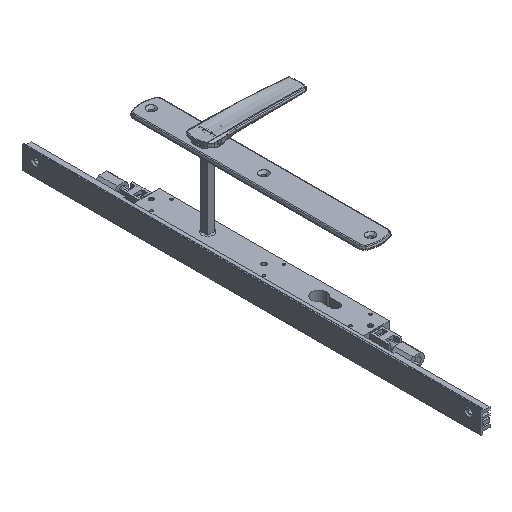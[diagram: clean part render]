
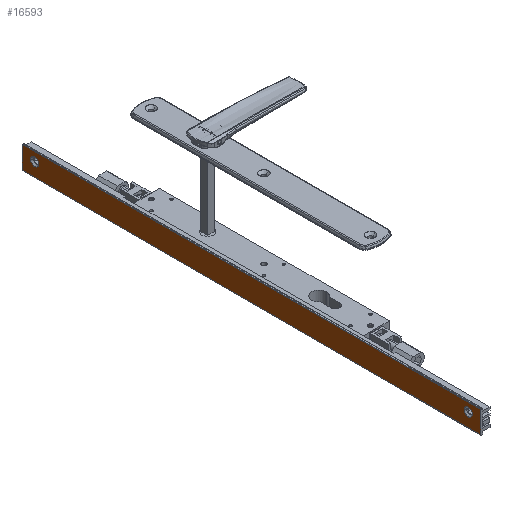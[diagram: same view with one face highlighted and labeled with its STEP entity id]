
A CAD part, isometric view. The second image highlights one B-rep face of the part: STEP entity #16593.
In plain terms, the highlighted planar face has unit normal (-1, 0, 0) as drawn and (0, 1, 0) by its records, which use the part's own axes.
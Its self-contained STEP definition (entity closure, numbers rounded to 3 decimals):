
#795 = EDGE_CURVE ( 'NONE', #2793, #11997, #7169, .T. ) ;
#2270 = DIRECTION ( 'NONE',  ( -1., 0., 0. ) ) ;
#2543 = CIRCLE ( 'NONE', #30531, 4.889 ) ;
#2561 = ORIENTED_EDGE ( 'NONE', *, *, #31897, .F. ) ;
#2793 = VERTEX_POINT ( 'NONE', #22550 ) ;
#3156 = VERTEX_POINT ( 'NONE', #8175 ) ;
#4117 = DIRECTION ( 'NONE',  ( 1., 0., 0. ) ) ;
#4167 = EDGE_CURVE ( 'NONE', #6639, #11997, #12774, .T. ) ;
#4194 = EDGE_CURVE ( 'NONE', #31401, #3156, #13647, .T. ) ;
#4330 = CARTESIAN_POINT ( 'NONE',  ( 11.8, 12.4, 15. ) ) ;
#4407 = VERTEX_POINT ( 'NONE', #9003 ) ;
#4635 = CARTESIAN_POINT ( 'NONE',  ( 20.8, 12.4, 0. ) ) ;
#4699 = EDGE_CURVE ( 'NONE', #30803, #2793, #15313, .T. ) ;
#5029 = DIRECTION ( 'NONE',  ( 0., -1., 0. ) ) ;
#5160 = VERTEX_POINT ( 'NONE', #21757 ) ;
#5890 = EDGE_LOOP ( 'NONE', ( #10649, #2561 ) ) ;
#6390 = FACE_BOUND ( 'NONE', #5890, .T. ) ;
#6639 = VERTEX_POINT ( 'NONE', #20525 ) ;
#6834 = DIRECTION ( 'NONE',  ( 0., 1., 0. ) ) ;
#7169 = LINE ( 'NONE', #17407, #8049 ) ;
#7295 = CARTESIAN_POINT ( 'NONE',  ( 22., 12.4, 0. ) ) ;
#7312 = PLANE ( 'NONE',  #14983 ) ;
#7470 = FACE_BOUND ( 'NONE', #21862, .T. ) ;
#7557 = DIRECTION ( 'NONE',  ( -1., 0., 0. ) ) ;
#7660 = ORIENTED_EDGE ( 'NONE', *, *, #18984, .T. ) ;
#7727 = CARTESIAN_POINT ( 'NONE',  ( 11.8, 12.4, 15. ) ) ;
#8049 = VECTOR ( 'NONE', #2270, 1000. ) ;
#8175 = CARTESIAN_POINT ( 'NONE',  ( 11.8, 12.4, 19.89 ) ) ;
#9003 = CARTESIAN_POINT ( 'NONE',  ( 11.8, 12.4, 524.111 ) ) ;
#9525 = DIRECTION ( 'NONE',  ( 0., 0., 1. ) ) ;
#9964 = EDGE_LOOP ( 'NONE', ( #7660, #27714, #26417, #19012 ) ) ;
#10649 = ORIENTED_EDGE ( 'NONE', *, *, #23510, .F. ) ;
#11997 = VERTEX_POINT ( 'NONE', #31278 ) ;
#12103 = AXIS2_PLACEMENT_3D ( 'NONE', #7727, #27259, #19917 ) ;
#12203 = CARTESIAN_POINT ( 'NONE',  ( 20.8, 12.4, 544. ) ) ;
#12774 = LINE ( 'NONE', #22232, #16749 ) ;
#13206 = AXIS2_PLACEMENT_3D ( 'NONE', #22465, #20011, #20828 ) ;
#13647 = CIRCLE ( 'NONE', #12103, 4.89 ) ;
#14131 = AXIS2_PLACEMENT_3D ( 'NONE', #4330, #26957, #14253 ) ;
#14253 = DIRECTION ( 'NONE',  ( 0., 0., 1. ) ) ;
#14983 = AXIS2_PLACEMENT_3D ( 'NONE', #12203, #5029, #4117 ) ;
#15313 = LINE ( 'NONE', #30774, #15725 ) ;
#15725 = VECTOR ( 'NONE', #30624, 1000. ) ;
#16593 = ADVANCED_FACE ( 'NONE', ( #7470, #6390, #17397 ), #7312, .F. ) ;
#16749 = VECTOR ( 'NONE', #9525, 1000. ) ;
#17318 = LINE ( 'NONE', #4635, #25778 ) ;
#17397 = FACE_OUTER_BOUND ( 'NONE', #9964, .T. ) ;
#17407 = CARTESIAN_POINT ( 'NONE',  ( 20.8, 12.4, 544. ) ) ;
#18281 = CIRCLE ( 'NONE', #14131, 4.89 ) ;
#18984 = EDGE_CURVE ( 'NONE', #30803, #6639, #17318, .T. ) ;
#19012 = ORIENTED_EDGE ( 'NONE', *, *, #4699, .F. ) ;
#19917 = DIRECTION ( 'NONE',  ( 0., 0., 1. ) ) ;
#20011 = DIRECTION ( 'NONE',  ( 0., 1., 0. ) ) ;
#20525 = CARTESIAN_POINT ( 'NONE',  ( -4.4, 12.4, 0. ) ) ;
#20828 = DIRECTION ( 'NONE',  ( 0., 0., 1. ) ) ;
#21660 = CARTESIAN_POINT ( 'NONE',  ( 11.8, 12.4, 529. ) ) ;
#21757 = CARTESIAN_POINT ( 'NONE',  ( 11.8, 12.4, 533.889 ) ) ;
#21862 = EDGE_LOOP ( 'NONE', ( #25865, #25921 ) ) ;
#22232 = CARTESIAN_POINT ( 'NONE',  ( -4.4, 12.4, 0. ) ) ;
#22465 = CARTESIAN_POINT ( 'NONE',  ( 11.8, 12.4, 529. ) ) ;
#22550 = CARTESIAN_POINT ( 'NONE',  ( 22., 12.4, 544. ) ) ;
#23510 = EDGE_CURVE ( 'NONE', #5160, #4407, #2543, .T. ) ;
#25778 = VECTOR ( 'NONE', #7557, 1000. ) ;
#25865 = ORIENTED_EDGE ( 'NONE', *, *, #28601, .F. ) ;
#25921 = ORIENTED_EDGE ( 'NONE', *, *, #4194, .F. ) ;
#26417 = ORIENTED_EDGE ( 'NONE', *, *, #795, .F. ) ;
#26848 = DIRECTION ( 'NONE',  ( 0., 0., 1. ) ) ;
#26957 = DIRECTION ( 'NONE',  ( 0., 1., 0. ) ) ;
#27259 = DIRECTION ( 'NONE',  ( 0., 1., 0. ) ) ;
#27714 = ORIENTED_EDGE ( 'NONE', *, *, #4167, .T. ) ;
#27781 = CARTESIAN_POINT ( 'NONE',  ( 11.8, 12.4, 10.111 ) ) ;
#28601 = EDGE_CURVE ( 'NONE', #3156, #31401, #18281, .T. ) ;
#30531 = AXIS2_PLACEMENT_3D ( 'NONE', #21660, #6834, #26848 ) ;
#30624 = DIRECTION ( 'NONE',  ( 0., 0., 1. ) ) ;
#30774 = CARTESIAN_POINT ( 'NONE',  ( 22., 12.4, 0. ) ) ;
#30803 = VERTEX_POINT ( 'NONE', #7295 ) ;
#31278 = CARTESIAN_POINT ( 'NONE',  ( -4.4, 12.4, 544. ) ) ;
#31401 = VERTEX_POINT ( 'NONE', #27781 ) ;
#31897 = EDGE_CURVE ( 'NONE', #4407, #5160, #31898, .T. ) ;
#31898 = CIRCLE ( 'NONE', #13206, 4.889 ) ;
